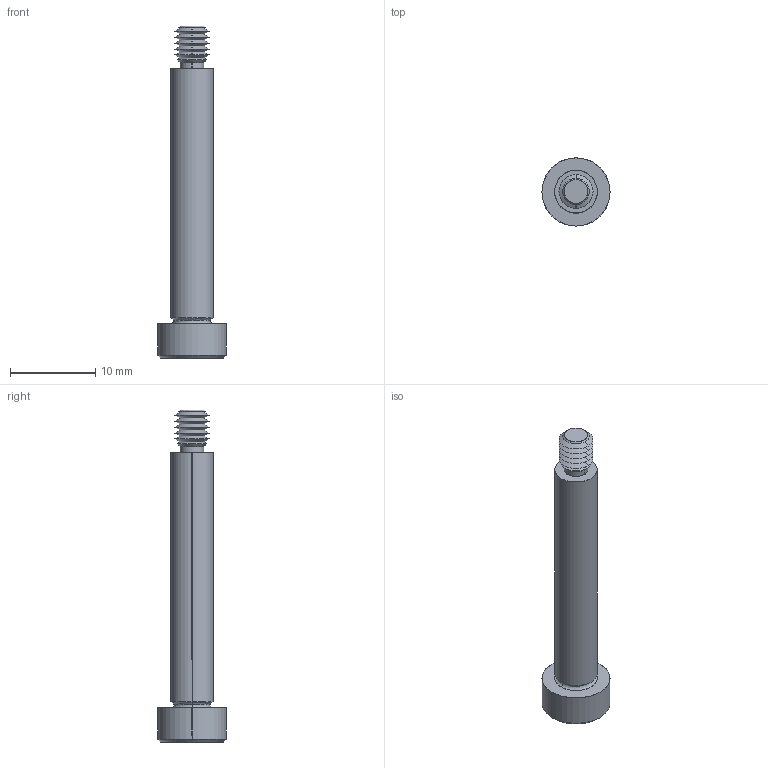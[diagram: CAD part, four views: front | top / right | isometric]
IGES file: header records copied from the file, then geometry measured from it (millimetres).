
Start section: SolidWorks IGES file using analytic representation for surfaces
Global section: file name: C:\Users\IanO\Documents\Temp Folder\GENERAL\SCREW REVISION\P0130_v2\P0130.T5_v2_20220106_IGES\P0130.050-030-T5.igs; native system: SolidWorks 2019; preprocessor: SolidWorks 2019; author: IanO; date: 220106.221735; units: millimetre
Bounding box: 8 x 8 x 39 mm (x, y, z)
Surface area: 787.2 mm2 (no closed solid volume)
Topology: 0 solids, 0 shells, 64 faces, 504 edges, 502 vertices
Faces by surface type: revolution 44, bspline 20
